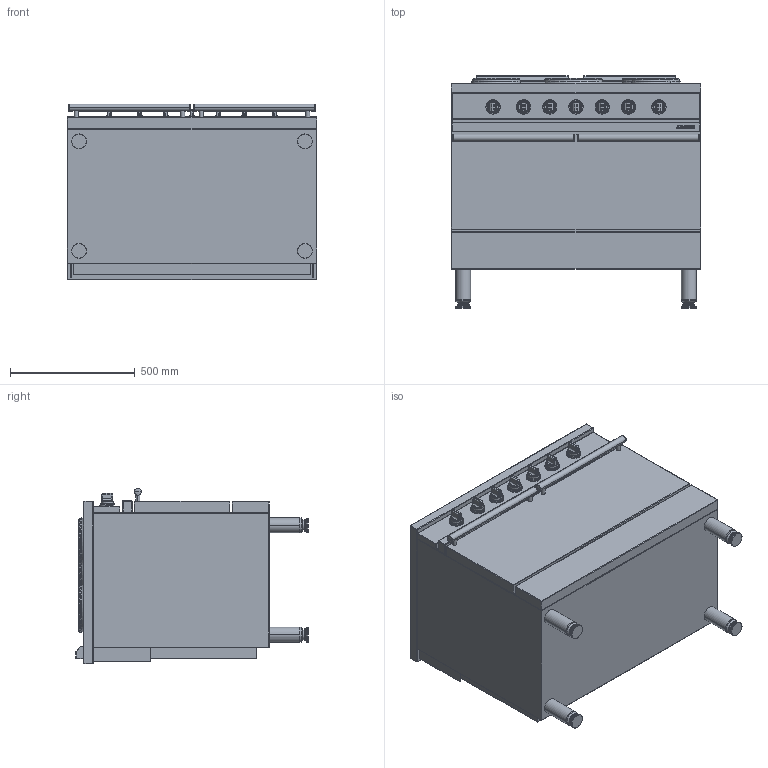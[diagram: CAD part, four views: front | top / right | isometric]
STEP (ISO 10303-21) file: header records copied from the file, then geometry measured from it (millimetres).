
FILE_DESCRIPTION((''),'2;1');
FILE_NAME('CE1051B_EXPORT_STEP_ASM','2017-11-22T',('r.avril'),(''),'PRO/ENGINEER BY PARAMETRIC TECHNOLOGY CORPORATION, 2014200','PRO/ENGINEER BY PARAMETRIC TECHNOLOGY CORPORATION, 2014200','');
FILE_SCHEMA(('AP203_CONFIGURATION_CONTROLLED_3D_DESIGN_OF_MECHANICAL_PARTS_AND_ASSEMBLIES_MIM_LF { 1 0 10303 403 2 1 2 }'));
Length unit declared in the file: millimetre
Products named in the file (5): FOURNEAUX_AMB_1051B_EXPORT_STEP; TABLE_1000_PLQ_ELEC; TABLE_1000_PLQ_ELEC_ASM; MANETTE_AMB_EXPORT_STEP; CE1051B_EXPORT_STEP_ASM
Assembly tree (10 placements, depth 3):
  CE1051B_EXPORT_STEP_ASM
    FOURNEAUX_AMB_1051B_EXPORT_STEP
    TABLE_1000_PLQ_ELEC_ASM
      TABLE_1000_PLQ_ELEC
    MANETTE_AMB_EXPORT_STEP  x7
Bounding box: 1000 x 930 x 703 mm (x, y, z)
Volume: 464784447.4 mm3; surface area: 7454084.4 mm2
Topology: 33 solids, 51 shells, 796 faces, 2349 edges, 1892 vertices
Faces by surface type: plane 228, cylinder 196, torus 114, cone 92, bspline 84, sphere 82
Entity records: 24053 total; most frequent: CARTESIAN_POINT 6073, DIRECTION 3087, ORIENTED_EDGE 2510, EDGE_CURVE 1479, AXIS2_PLACEMENT_3D 1177, VERTEX_POINT 1046, VECTOR 718, LINE 718
